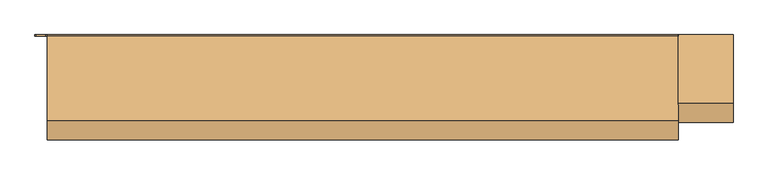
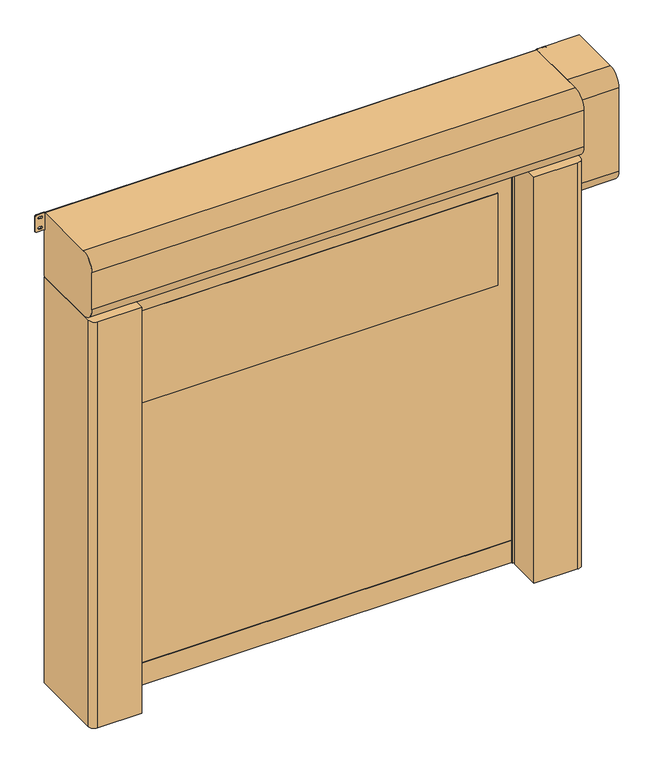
"""IFC4 building model written with IfcOpenShell, lengths in millimetres: door geometry, DO_WPB_Dynamicroll Frigo_Air_BMP : Dynamicroll Air."""

import ifcopenshell
import ifcopenshell.guid

model = None  # the IFC model being written
_history = None  # IfcOwnerHistory: only IFC2X3 demands one
_inside = {}  # id of a spatial element -> (the spatial element, [elements in it])
_under = {}  # id of a project, library or spatial element -> (it, [spatial elements below it])
_declared = {}  # id of a project -> (the project, [libraries it declares])
_typed = {}  # id of a type object -> (the type object, [elements of that type])
_made_of = {}  # id of a material, layer set ... -> (it, [elements and type objects made of it])


def new_model(schema):
    """Start an empty IFC model of exactly this schema.

    Asked for "IFC4X3", IfcOpenShell would pick the latest addendum, in which some entities
    have other attributes; the version numbers below select the first issue.
    IFC2X3 requires an IfcOwnerHistory on every rooted entity: one is made here for all.
    """
    global model, _history
    if schema == "IFC4X3":
        model = ifcopenshell.file(schema_version=(4, 3, 0, 0))
    else:
        model = ifcopenshell.file(schema=schema)
    _inside.clear()
    _under.clear()
    _declared.clear()
    _typed.clear()
    _made_of.clear()
    _history = None
    if model.schema == "IFC2X3":
        org = make("IfcOrganization", Name="unknown")
        user = make(
            "IfcPersonAndOrganization",
            ThePerson=make("IfcPerson", FamilyName="unknown"),
            TheOrganization=org,
        )
        app = make(
            "IfcApplication",
            ApplicationDeveloper=org,
            Version="unknown",
            ApplicationFullName="unknown",
            ApplicationIdentifier="unknown",
        )
        _history = make(
            "IfcOwnerHistory",
            OwningUser=user,
            OwningApplication=app,
            ChangeAction="ADDED",
            CreationDate=0,
        )
    return model


def make(cls, **values):
    """One entity of the class cls with the attributes given. An attribute that is None is left unset."""
    return model.create_entity(
        cls, **{name: value for name, value in values.items() if value is not None}
    )


def rooted(cls, **values):
    """An entity with a GlobalId (a new one), such as an element, a storey or a relation."""
    return make(cls, GlobalId=ifcopenshell.guid.new(), OwnerHistory=_history, **values)


def si_unit(unit_type, name, prefix=None):
    """IfcSIUnit, for example si_unit("LENGTHUNIT", "METRE", prefix="MILLI")."""
    return make("IfcSIUnit", UnitType=unit_type, Prefix=prefix, Name=name)


def assignment(units):
    """IfcUnitAssignment: the units of a project."""
    return None if units is None else make("IfcUnitAssignment", Units=units)


def point(xyz):
    """IfcCartesianPoint."""
    return None if xyz is None else make("IfcCartesianPoint", Coordinates=xyz)


def direction(xyz):
    """IfcDirection."""
    return None if xyz is None else make("IfcDirection", DirectionRatios=xyz)


def frame(location, z_axis=None, x_axis=None):
    """IfcAxis2Placement3D, a coordinate frame: its origin and axes. An axis left out is left unset."""
    return make(
        "IfcAxis2Placement3D",
        Location=point(location),
        Axis=direction(z_axis),
        RefDirection=direction(x_axis),
    )


def frame_2d(location, x_axis=None):
    """IfcAxis2Placement2D, a coordinate frame in the plane: its origin and x axis."""
    return make(
        "IfcAxis2Placement2D", Location=point(location), RefDirection=direction(x_axis)
    )


def origin():
    """The frame at (0, 0, 0) with its axes left unset."""
    return frame((0.0, 0.0, 0.0))


def origin_with_axes():
    """The frame at (0, 0, 0) with the z axis (0, 0, 1) and the x axis (1, 0, 0) written out."""
    return frame((0.0, 0.0, 0.0), z_axis=(0.0, 0.0, 1.0), x_axis=(1.0, 0.0, 0.0))


def place(relative_to, where):
    """IfcLocalPlacement: puts the frame where relative to a parent placement (None: the world)."""
    return make(
        "IfcLocalPlacement", PlacementRelTo=relative_to, RelativePlacement=where
    )


def context(
    kind, dimensions, precision=None, world=None, true_north=None, identifier=None
):
    """IfcGeometricRepresentationContext, for example the 3D "Model" context."""
    return make(
        "IfcGeometricRepresentationContext",
        ContextIdentifier=identifier,
        ContextType=kind,
        CoordinateSpaceDimension=dimensions,
        Precision=precision,
        WorldCoordinateSystem=world,
        TrueNorth=true_north,
    )


def project(units=None, contexts=None):
    """IfcProject with its units and contexts."""
    return rooted(
        "IfcProject",
        Name="project",
        RepresentationContexts=contexts,
        UnitsInContext=assignment(units),
    )


def spatial(cls, under=None, at=None, **own):
    """A site, building, storey or space (cls), placed at a placement, below another one or the project."""
    s = rooted(cls, ObjectPlacement=at, **own)
    if under is not None:
        _under.setdefault(under.id(), (under, []))[1].append(s)
    return s


def polyline(points):
    """IfcPolyline through the points."""
    return make("IfcPolyline", Points=[point(p) for p in points])


def circle_curve(where, radius):
    """IfcCircle in the frame where."""
    return make("IfcCircle", Position=where, Radius=radius)


def trimmed(basis, trim1, trim2, sense, master):
    """IfcTrimmedCurve: the piece of a basis curve between two trims."""
    return make(
        "IfcTrimmedCurve",
        BasisCurve=basis,
        Trim1=trim1,
        Trim2=trim2,
        SenseAgreement=sense,
        MasterRepresentation=master,
    )


def segment(curve, same_sense, transition):
    """IfcCompositeCurveSegment."""
    return make(
        "IfcCompositeCurveSegment",
        Transition=transition,
        SameSense=same_sense,
        ParentCurve=curve,
    )


def composite_curve(segments, self_intersect=None):
    """IfcCompositeCurve: segments joined end to end."""
    return make("IfcCompositeCurve", Segments=segments, SelfIntersect=self_intersect)


def outline(outer, holes=None, kind="AREA"):
    """IfcArbitraryClosedProfileDef: a profile drawn as a closed curve; with holes, ...WithVoids."""
    if holes is None:
        return make("IfcArbitraryClosedProfileDef", ProfileType=kind, OuterCurve=outer)
    return make(
        "IfcArbitraryProfileDefWithVoids",
        ProfileType=kind,
        OuterCurve=outer,
        InnerCurves=holes,
    )


def extrude(swept, where, along, depth):
    """IfcExtrudedAreaSolid: the profile swept, set in the frame where, extruded along a direction by depth."""
    return make(
        "IfcExtrudedAreaSolid",
        SweptArea=swept,
        Position=where,
        ExtrudedDirection=direction(along),
        Depth=depth,
    )


def shape(context_of_items, identifier, shape_type, items):
    """IfcShapeRepresentation: the items that make up one representation, for example the "Body"."""
    return make(
        "IfcShapeRepresentation",
        ContextOfItems=context_of_items,
        RepresentationIdentifier=identifier,
        RepresentationType=shape_type,
        Items=items,
    )


def source(mapping_origin, context_of_items, identifier, shape_type, items):
    """IfcRepresentationMap: a shape defined once, which mapped items show again and again."""
    return make(
        "IfcRepresentationMap",
        MappingOrigin=mapping_origin,
        MappedRepresentation=shape(context_of_items, identifier, shape_type, items),
    )


def transform(
    local_origin,
    x_axis=None,
    y_axis=None,
    z_axis=None,
    scale=None,
    scale2=None,
    scale3=None,
    uniform=True,
):
    """IfcCartesianTransformationOperator3D, or its non-uniform kind. x_axis, y_axis, z_axis: its Axis1, 2, 3."""
    if uniform:
        return make(
            "IfcCartesianTransformationOperator3D",
            Axis1=direction(x_axis),
            Axis2=direction(y_axis),
            LocalOrigin=point(local_origin),
            Scale=scale,
            Axis3=direction(z_axis),
        )
    return make(
        "IfcCartesianTransformationOperator3DnonUniform",
        Axis1=direction(x_axis),
        Axis2=direction(y_axis),
        LocalOrigin=point(local_origin),
        Scale=scale,
        Axis3=direction(z_axis),
        Scale2=scale2,
        Scale3=scale3,
    )


def mapped(mapping_source, mapping_target):
    """IfcMappedItem: shows the shape of a source again, moved by a transform."""
    return make(
        "IfcMappedItem", MappingSource=mapping_source, MappingTarget=mapping_target
    )


def made_of(thing, what):
    """Note that an element or type object is made of a material, layer set ...; save() writes the relation."""
    if what is not None:
        _made_of.setdefault(what.id(), (what, []))[1].append(thing)
    return thing


def element(
    cls,
    number,
    at=None,
    inside=None,
    cuts=None,
    type_object=None,
    material=None,
    context=None,
    identifier="Body",
    shape_type=None,
    held_by="IfcProductDefinitionShape",
    body=None,
    shapes=None,
    **own,
):
    """One element of the class cls, such as IfcWall. Its Tag is "e" and its number.

    at: its placement. inside: the storey or other place that contains it. cuts: it is an
    opening in that element (IfcRelVoidsElement). A single representation is given by context,
    identifier, shape_type and body (its items); several are given by shapes. held_by: the class
    of the entity that holds the representations. save() writes the other relations.
    """
    e = rooted(cls, Tag="e%d" % number, ObjectPlacement=at, **own)
    if body is not None:
        shapes = [shape(context, identifier, shape_type, body)]
    if shapes is not None:
        e.Representation = make(held_by, Representations=shapes)
    if inside is not None:
        _inside.setdefault(inside.id(), (inside, []))[1].append(e)
    if cuts is not None:
        rooted(
            "IfcRelVoidsElement", RelatingBuildingElement=cuts, RelatedOpeningElement=e
        )
    if type_object is not None:
        _typed.setdefault(type_object.id(), (type_object, []))[1].append(e)
    return made_of(e, material)


def aggregate(whole, parts):
    """IfcRelAggregates: a whole, such as a stair, and the parts it consists of."""
    return rooted("IfcRelAggregates", RelatingObject=whole, RelatedObjects=parts)


def save(model, path):
    """Write the relations noted so far, then the file.

    IfcRelAggregates (storeys below a building ...), IfcRelContainedInSpatialStructure (elements
    in a storey), IfcRelDefinesByType, IfcRelAssociatesMaterial and IfcRelDeclares: one each for
    every whole, place, type object, material and project.
    """
    for whole, parts in _under.values():
        aggregate(whole, parts)
    for where, things in _inside.values():
        rooted(
            "IfcRelContainedInSpatialStructure",
            RelatedElements=things,
            RelatingStructure=where,
        )
    for kind, things in _typed.values():
        rooted("IfcRelDefinesByType", RelatedObjects=things, RelatingType=kind)
    for what, things in _made_of.values():
        rooted("IfcRelAssociatesMaterial", RelatedObjects=things, RelatingMaterial=what)
    for by, libraries in _declared.values():
        rooted("IfcRelDeclares", RelatingContext=by, RelatedDefinitions=libraries)
    model.write(path)


def door_5c42f5d7(model_context):
    return source(origin(), model_context, "Body", "SweptSolid", [
        extrude(outline(composite_curve([segment(trimmed(circle_curve(frame_2d((1416.6666667, 1171.0)), 6.0), [point((1422.6666667, 1171.0))], [point((1410.6666667, 1171.0))], False, "CARTESIAN"), True, "CONTINUOUS"), segment(polyline([(1410.6666667, 1171.0), (1410.6666667, 1189.0)]), True, "CONTINUOUS"), segment(trimmed(circle_curve(frame_2d((1416.6666667, 1189.0)), 6.0), [point((1410.6666667, 1189.0))], [point((1422.6666667, 1189.0))], False, "CARTESIAN"), True, "CONTINUOUS"), segment(polyline([(1422.6666667, 1189.0), (1422.6666667, 1171.0)]), True, "CONTINUOUS")], self_intersect=False)), frame((0.0, -20.0, 0.0), z_axis=(0.0, 1.0, 0.0), x_axis=(0.0, 0.0, 1.0)), (0.0, 0.0, 1.0), 20.0),
        extrude(outline(composite_curve([segment(trimmed(circle_curve(frame_2d((783.3333333, 1171.0)), 6.0), [point((789.3333333, 1171.0))], [point((777.3333333, 1171.0))], False, "CARTESIAN"), True, "CONTINUOUS"), segment(polyline([(777.3333333, 1171.0), (777.3333333, 1189.0)]), True, "CONTINUOUS"), segment(trimmed(circle_curve(frame_2d((783.3333333, 1189.0)), 6.0), [point((777.3333333, 1189.0))], [point((789.3333333, 1189.0))], False, "CARTESIAN"), True, "CONTINUOUS"), segment(polyline([(789.3333333, 1189.0), (789.3333333, 1171.0)]), True, "CONTINUOUS")], self_intersect=False)), frame((0.0, -20.0, 0.0), z_axis=(0.0, 1.0, 0.0), x_axis=(0.0, 0.0, 1.0)), (0.0, 0.0, 1.0), 20.0),
        extrude(outline(composite_curve([segment(trimmed(circle_curve(frame_2d((2050.0, 1171.0)), 6.0), [point((2056.0, 1171.0))], [point((2044.0, 1171.0))], False, "CARTESIAN"), True, "CONTINUOUS"), segment(polyline([(2044.0, 1171.0), (2044.0, 1189.0)]), True, "CONTINUOUS"), segment(trimmed(circle_curve(frame_2d((2050.0, 1189.0)), 6.0), [point((2044.0, 1189.0))], [point((2056.0, 1189.0))], False, "CARTESIAN"), True, "CONTINUOUS"), segment(polyline([(2056.0, 1189.0), (2056.0, 1171.0)]), True, "CONTINUOUS")], self_intersect=False)), frame((0.0, -20.0, 0.0), z_axis=(0.0, 1.0, 0.0), x_axis=(0.0, 0.0, 1.0)), (0.0, 0.0, 1.0), 20.0),
        extrude(outline(composite_curve([segment(trimmed(circle_curve(frame_2d((150.0, 1171.0)), 6.0), [point((156.0, 1171.0))], [point((144.0, 1171.0))], False, "CARTESIAN"), True, "CONTINUOUS"), segment(polyline([(144.0, 1171.0), (144.0, 1189.0)]), True, "CONTINUOUS"), segment(trimmed(circle_curve(frame_2d((150.0, 1189.0)), 6.0), [point((144.0, 1189.0))], [point((156.0, 1189.0))], False, "CARTESIAN"), True, "CONTINUOUS"), segment(polyline([(156.0, 1189.0), (156.0, 1171.0)]), True, "CONTINUOUS")], self_intersect=False)), frame((0.0, -20.0, 0.0), z_axis=(0.0, 1.0, 0.0), x_axis=(0.0, 0.0, 1.0)), (0.0, 0.0, 1.0), 20.0),
        extrude(outline(composite_curve([segment(polyline([(1422.6666667, -1171.0), (1422.6666667, -1189.0)]), True, "CONTINUOUS"), segment(trimmed(circle_curve(frame_2d((1416.6666667, -1189.0)), 6.0), [point((1422.6666667, -1189.0))], [point((1410.6666667, -1189.0))], False, "CARTESIAN"), True, "CONTINUOUS"), segment(polyline([(1410.6666667, -1189.0), (1410.6666667, -1171.0)]), True, "CONTINUOUS"), segment(trimmed(circle_curve(frame_2d((1416.6666667, -1171.0)), 6.0), [point((1410.6666667, -1171.0))], [point((1422.6666667, -1171.0))], False, "CARTESIAN"), True, "CONTINUOUS")], self_intersect=False)), frame((0.0, -20.0, 0.0), z_axis=(0.0, 1.0, 0.0), x_axis=(0.0, 0.0, 1.0)), (0.0, 0.0, 1.0), 20.0),
        extrude(outline(composite_curve([segment(polyline([(789.3333333, -1171.0), (789.3333333, -1189.0)]), True, "CONTINUOUS"), segment(trimmed(circle_curve(frame_2d((783.3333333, -1189.0)), 6.0), [point((789.3333333, -1189.0))], [point((777.3333333, -1189.0))], False, "CARTESIAN"), True, "CONTINUOUS"), segment(polyline([(777.3333333, -1189.0), (777.3333333, -1171.0)]), True, "CONTINUOUS"), segment(trimmed(circle_curve(frame_2d((783.3333333, -1171.0)), 6.0), [point((777.3333333, -1171.0))], [point((789.3333333, -1171.0))], False, "CARTESIAN"), True, "CONTINUOUS")], self_intersect=False)), frame((0.0, -20.0, 0.0), z_axis=(0.0, 1.0, 0.0), x_axis=(0.0, 0.0, 1.0)), (0.0, 0.0, 1.0), 20.0),
        extrude(outline(composite_curve([segment(polyline([(2056.0, -1171.0), (2056.0, -1189.0)]), True, "CONTINUOUS"), segment(trimmed(circle_curve(frame_2d((2050.0, -1189.0)), 6.0), [point((2056.0, -1189.0))], [point((2044.0, -1189.0))], False, "CARTESIAN"), True, "CONTINUOUS"), segment(polyline([(2044.0, -1189.0), (2044.0, -1171.0)]), True, "CONTINUOUS"), segment(trimmed(circle_curve(frame_2d((2050.0, -1171.0)), 6.0), [point((2044.0, -1171.0))], [point((2056.0, -1171.0))], False, "CARTESIAN"), True, "CONTINUOUS")], self_intersect=False)), frame((0.0, -20.0, 0.0), z_axis=(0.0, 1.0, 0.0), x_axis=(0.0, 0.0, 1.0)), (0.0, 0.0, 1.0), 20.0),
        extrude(outline(composite_curve([segment(polyline([(156.0, -1171.0), (156.0, -1189.0)]), True, "CONTINUOUS"), segment(trimmed(circle_curve(frame_2d((150.0, -1189.0)), 6.0), [point((156.0, -1189.0))], [point((144.0, -1189.0))], False, "CARTESIAN"), True, "CONTINUOUS"), segment(polyline([(144.0, -1189.0), (144.0, -1171.0)]), True, "CONTINUOUS"), segment(trimmed(circle_curve(frame_2d((150.0, -1171.0)), 6.0), [point((144.0, -1171.0))], [point((156.0, -1171.0))], False, "CARTESIAN"), True, "CONTINUOUS")], self_intersect=False)), frame((0.0, -20.0, 0.0), z_axis=(0.0, 1.0, 0.0), x_axis=(0.0, 0.0, 1.0)), (0.0, 0.0, 1.0), 20.0),
        extrude(outline(composite_curve([segment(trimmed(circle_curve(frame_2d((1526.0, 929.0)), 1.0), [point((1525.0, 929.0))], [point((1526.0, 930.0))], False, "CARTESIAN"), True, "CONTINUOUS"), segment(polyline([(1526.0, 930.0), (2024.0, 930.0)]), True, "CONTINUOUS"), segment(trimmed(circle_curve(frame_2d((2024.0, 929.0)), 1.0), [point((2024.0, 930.0))], [point((2025.0, 929.0))], False, "CARTESIAN"), True, "CONTINUOUS"), segment(polyline([(2025.0, 929.0), (2025.0, -929.0)]), True, "CONTINUOUS"), segment(trimmed(circle_curve(frame_2d((2024.0, -929.0)), 1.0), [point((2025.0, -929.0))], [point((2024.0, -930.0))], False, "CARTESIAN"), True, "CONTINUOUS"), segment(polyline([(2024.0, -930.0), (1526.0, -930.0)]), True, "CONTINUOUS"), segment(trimmed(circle_curve(frame_2d((1526.0, -929.0)), 1.0), [point((1526.0, -930.0))], [point((1525.0, -929.0))], False, "CARTESIAN"), True, "CONTINUOUS"), segment(polyline([(1525.0, -929.0), (1525.0, 929.0)]), True, "CONTINUOUS")], self_intersect=False)), frame((0.0, -228.5, 0.0), z_axis=(0.0, 1.0, 0.0), x_axis=(0.0, 0.0, 1.0)), (0.0, 0.0, 1.0), 7.0),
        extrude(outline(polyline([(120.0, -1012.0), (120.0, 1012.0), (2375.0, 1012.0), (2375.0, -1012.0), (120.0, -1012.0)]), holes=[composite_curve([segment(trimmed(circle_curve(frame_2d((1526.0, 929.0)), 1.0), [point((1526.0, 930.0))], [point((1525.0, 929.0))], True, "CARTESIAN"), True, "CONTINUOUS"), segment(polyline([(1525.0, 929.0), (1525.0, -929.0)]), True, "CONTINUOUS"), segment(trimmed(circle_curve(frame_2d((1526.0, -929.0)), 1.0), [point((1525.0, -929.0))], [point((1526.0, -930.0))], True, "CARTESIAN"), True, "CONTINUOUS"), segment(polyline([(1526.0, -930.0), (2024.0, -930.0)]), True, "CONTINUOUS"), segment(trimmed(circle_curve(frame_2d((2024.0, -929.0)), 1.0), [point((2024.0, -930.0))], [point((2025.0, -929.0))], True, "CARTESIAN"), True, "CONTINUOUS"), segment(polyline([(2025.0, -929.0), (2025.0, 929.0)]), True, "CONTINUOUS"), segment(trimmed(circle_curve(frame_2d((2024.0, 929.0)), 1.0), [point((2025.0, 929.0))], [point((2024.0, 930.0))], True, "CARTESIAN"), True, "CONTINUOUS"), segment(polyline([(2024.0, 930.0), (1526.0, 930.0)]), True, "CONTINUOUS")], self_intersect=False)]), frame((0.0, -228.5, 0.0), z_axis=(0.0, 1.0, 0.0), x_axis=(0.0, 0.0, 1.0)), (0.0, 0.0, 1.0), 7.0),
        extrude(outline(polyline([(-1012.0, -219.5), (1012.0, -219.5), (1012.0, -230.5), (-1012.0, -230.5), (-1012.0, -219.5)])), origin_with_axes(), (0.0, 0.0, 1.0), 120.0),
        extrude(outline(composite_curve([segment(polyline([(-1260.0, 0.0), (-1015.0, 0.0), (-1015.0, -209.2857143), (-1035.0, -215.0), (-1000.0, -215.0), (-1000.0, -221.5), (-1020.0, -221.5), (-1020.0, -228.5), (-1000.0, -228.5), (-1000.0, -235.0), (-1035.0, -235.0), (-1035.0, -250.0), (-1005.0, -250.0), (-1005.0, -420.0), (-1230.0, -420.0)]), True, "CONTINUOUS"), segment(trimmed(circle_curve(frame_2d((-1230.0, -390.0)), 30.0), [point((-1230.0, -420.0))], [point((-1260.0, -390.0))], False, "CARTESIAN"), True, "CONTINUOUS"), segment(polyline([(-1260.0, -390.0), (-1260.0, 0.0)]), True, "CONTINUOUS")], self_intersect=False)), origin_with_axes(), (0.0, 0.0, 1.0), 2200.0),
        extrude(outline(composite_curve([segment(polyline([(1260.0, 0.0), (1260.0, -390.0)]), True, "CONTINUOUS"), segment(trimmed(circle_curve(frame_2d((1230.0, -390.0)), 30.0), [point((1260.0, -390.0))], [point((1230.0, -420.0))], False, "CARTESIAN"), True, "CONTINUOUS"), segment(polyline([(1230.0, -420.0), (1005.0, -420.0), (1005.0, -250.0), (1035.0, -250.0), (1035.0, -235.0), (1000.0, -235.0), (1000.0, -228.5), (1020.0, -228.5), (1020.0, -221.5), (1000.0, -221.5), (1000.0, -215.0), (1035.0, -215.0), (1015.0, -209.2857143), (1015.0, 0.0), (1260.0, 0.0)]), True, "CONTINUOUS")], self_intersect=False)), origin_with_axes(), (0.0, 0.0, 1.0), 2200.0),
        extrude(outline(composite_curve([segment(polyline([(0.0, 2550.0), (0.0, 1950.0), (-275.0, 1950.0)]), True, "CONTINUOUS"), segment(trimmed(circle_curve(frame_2d((-275.0, 2025.0)), 75.0), [point((-275.0, 1950.0))], [point((-350.0, 2025.0))], False, "CARTESIAN"), True, "CONTINUOUS"), segment(polyline([(-350.0, 2025.0), (-350.0, 2475.0)]), True, "CONTINUOUS"), segment(trimmed(circle_curve(frame_2d((-275.0, 2475.0)), 75.0), [point((-350.0, 2475.0))], [point((-275.0, 2550.0))], False, "CARTESIAN"), True, "CONTINUOUS"), segment(polyline([(-275.0, 2550.0), (0.0, 2550.0)]), True, "CONTINUOUS")], self_intersect=False)), frame((1260.0, 0.0, 0.0), z_axis=(1.0, 0.0, 0.0), x_axis=(0.0, 1.0, 0.0)), (0.0, 0.0, 1.0), 220.0),
        extrude(outline(composite_curve([segment(trimmed(circle_curve(frame_2d((-5.0, 2205.0)), 5.0), [point((0.0, 2205.0))], [point((-5.0, 2200.0))], False, "CARTESIAN"), True, "CONTINUOUS"), segment(polyline([(-5.0, 2200.0), (-345.0, 2200.0)]), True, "CONTINUOUS"), segment(trimmed(circle_curve(frame_2d((-345.0, 2275.0)), 75.0), [point((-345.0, 2200.0))], [point((-420.0, 2275.0))], False, "CARTESIAN"), True, "CONTINUOUS"), segment(polyline([(-420.0, 2275.0), (-420.0, 2475.0)]), True, "CONTINUOUS"), segment(trimmed(circle_curve(frame_2d((-345.0, 2475.0)), 75.0), [point((-420.0, 2475.0))], [point((-345.0, 2550.0))], False, "CARTESIAN"), True, "CONTINUOUS"), segment(polyline([(-345.0, 2550.0), (-5.0, 2550.0)]), True, "CONTINUOUS"), segment(trimmed(circle_curve(frame_2d((-5.0, 2545.0)), 5.0), [point((-5.0, 2550.0))], [point((0.0, 2545.0))], False, "CARTESIAN"), True, "CONTINUOUS"), segment(polyline([(0.0, 2545.0), (0.0, 2205.0)]), True, "CONTINUOUS")], self_intersect=False)), frame((-1260.0, 0.0, 0.0), z_axis=(1.0, 0.0, 0.0), x_axis=(0.0, 1.0, 0.0)), (0.0, 0.0, 1.0), 2520.0),
        extrude(outline(composite_curve([segment(trimmed(circle_curve(frame_2d((2463.75, 1265.75)), 5.75), [point((2463.75, 1260.0))], [point((2458.0, 1265.75))], False, "CARTESIAN"), True, "CONTINUOUS"), segment(polyline([(2458.0, 1265.75), (2458.0, 1303.25)]), True, "CONTINUOUS"), segment(trimmed(circle_curve(frame_2d((2463.75, 1303.25)), 5.75), [point((2458.0, 1303.25))], [point((2463.75, 1309.0))], False, "CARTESIAN"), True, "CONTINUOUS"), segment(polyline([(2463.75, 1309.0), (2544.25, 1309.0)]), True, "CONTINUOUS"), segment(trimmed(circle_curve(frame_2d((2544.25, 1303.25)), 5.75), [point((2544.25, 1309.0))], [point((2550.0, 1303.25))], False, "CARTESIAN"), True, "CONTINUOUS"), segment(polyline([(2550.0, 1303.25), (2550.0, 1265.75)]), True, "CONTINUOUS"), segment(trimmed(circle_curve(frame_2d((2544.25, 1265.75)), 5.75), [point((2550.0, 1265.75))], [point((2544.25, 1260.0))], False, "CARTESIAN"), True, "CONTINUOUS"), segment(polyline([(2544.25, 1260.0), (2463.75, 1260.0)]), True, "CONTINUOUS")], self_intersect=False), holes=[composite_curve([segment(trimmed(circle_curve(frame_2d((2476.5, 1288.75)), 5.75), [point((2482.25, 1288.75))], [point((2470.75, 1288.75))], True, "CARTESIAN"), True, "CONTINUOUS"), segment(polyline([(2470.75, 1288.75), (2470.75, 1280.25)]), True, "CONTINUOUS"), segment(trimmed(circle_curve(frame_2d((2476.5, 1280.25)), 5.75), [point((2470.75, 1280.25))], [point((2482.25, 1280.25))], True, "CARTESIAN"), True, "CONTINUOUS"), segment(polyline([(2482.25, 1280.25), (2482.25, 1288.75)]), True, "CONTINUOUS")], self_intersect=False), composite_curve([segment(trimmed(circle_curve(frame_2d((2531.5, 1288.75)), 5.75), [point((2537.25, 1288.75))], [point((2525.75, 1288.75))], True, "CARTESIAN"), True, "CONTINUOUS"), segment(polyline([(2525.75, 1288.75), (2525.75, 1280.25)]), True, "CONTINUOUS"), segment(trimmed(circle_curve(frame_2d((2531.5, 1280.25)), 5.75), [point((2525.75, 1280.25))], [point((2537.25, 1280.25))], True, "CARTESIAN"), True, "CONTINUOUS"), segment(polyline([(2537.25, 1280.25), (2537.25, 1288.75)]), True, "CONTINUOUS")], self_intersect=False)]), frame((0.0, -5.0, 0.0), z_axis=(0.0, 1.0, 0.0), x_axis=(0.0, 0.0, 1.0)), (0.0, 0.0, 1.0), 5.0),
        extrude(outline(composite_curve([segment(trimmed(circle_curve(frame_2d((2463.75, -1303.25)), 5.75), [point((2463.75, -1309.0))], [point((2458.0, -1303.25))], False, "CARTESIAN"), True, "CONTINUOUS"), segment(polyline([(2458.0, -1303.25), (2458.0, -1265.75)]), True, "CONTINUOUS"), segment(trimmed(circle_curve(frame_2d((2463.75, -1265.75)), 5.75), [point((2458.0, -1265.75))], [point((2463.75, -1260.0))], False, "CARTESIAN"), True, "CONTINUOUS"), segment(polyline([(2463.75, -1260.0), (2544.25, -1260.0)]), True, "CONTINUOUS"), segment(trimmed(circle_curve(frame_2d((2544.25, -1265.75)), 5.75), [point((2544.25, -1260.0))], [point((2550.0, -1265.75))], False, "CARTESIAN"), True, "CONTINUOUS"), segment(polyline([(2550.0, -1265.75), (2550.0, -1303.25)]), True, "CONTINUOUS"), segment(trimmed(circle_curve(frame_2d((2544.25, -1303.25)), 5.75), [point((2550.0, -1303.25))], [point((2544.25, -1309.0))], False, "CARTESIAN"), True, "CONTINUOUS"), segment(polyline([(2544.25, -1309.0), (2463.75, -1309.0)]), True, "CONTINUOUS")], self_intersect=False), holes=[composite_curve([segment(trimmed(circle_curve(frame_2d((2476.5, -1280.25)), 5.75), [point((2482.25, -1280.25))], [point((2470.75, -1280.25))], True, "CARTESIAN"), True, "CONTINUOUS"), segment(polyline([(2470.75, -1280.25), (2470.75, -1288.75)]), True, "CONTINUOUS"), segment(trimmed(circle_curve(frame_2d((2476.5, -1288.75)), 5.75), [point((2470.75, -1288.75))], [point((2482.25, -1288.75))], True, "CARTESIAN"), True, "CONTINUOUS"), segment(polyline([(2482.25, -1288.75), (2482.25, -1280.25)]), True, "CONTINUOUS")], self_intersect=False), composite_curve([segment(trimmed(circle_curve(frame_2d((2531.5, -1280.25)), 5.75), [point((2537.25, -1280.25))], [point((2525.75, -1280.25))], True, "CARTESIAN"), True, "CONTINUOUS"), segment(polyline([(2525.75, -1280.25), (2525.75, -1288.75)]), True, "CONTINUOUS"), segment(trimmed(circle_curve(frame_2d((2531.5, -1288.75)), 5.75), [point((2525.75, -1288.75))], [point((2537.25, -1288.75))], True, "CARTESIAN"), True, "CONTINUOUS"), segment(polyline([(2537.25, -1288.75), (2537.25, -1280.25)]), True, "CONTINUOUS")], self_intersect=False)]), frame((0.0, -5.0, 0.0), z_axis=(0.0, 1.0, 0.0), x_axis=(0.0, 0.0, 1.0)), (0.0, 0.0, 1.0), 5.0),
    ])


if __name__ == "__main__":
    model = new_model("IFC4")
    model_context = context("Model", 3, world=origin())
    ifc_project = project(units=[si_unit("LENGTHUNIT", "METRE", prefix="MILLI")], contexts=[model_context])
    site = spatial("IfcSite", under=ifc_project)
    building = spatial("IfcBuilding", under=site)
    placement = place(None, origin())
    door_shape = door_5c42f5d7(model_context)
    element("IfcDoor", 1, ObjectType="DO_WPB_Dynamicroll Frigo_Air_BMP : Dynamicroll Air", at=placement, inside=building, context=model_context, shape_type="MappedRepresentation", body=[
        mapped(door_shape, transform((0.0, 0.0, 0.0), x_axis=(1.0, 0.0, 0.0), y_axis=(0.0, 1.0, 0.0), z_axis=(0.0, 0.0, 1.0))),
    ])
    save(model, "model.ifc")
